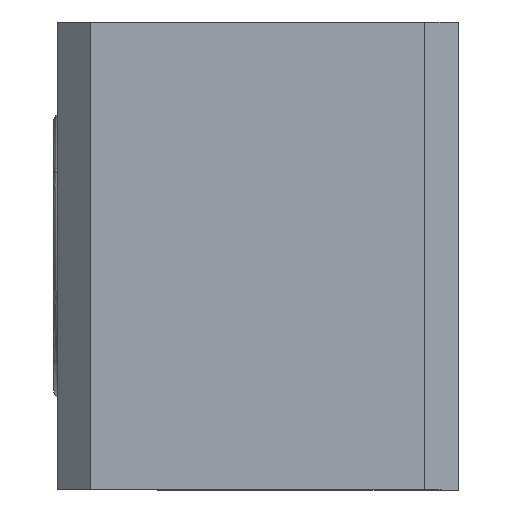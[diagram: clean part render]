
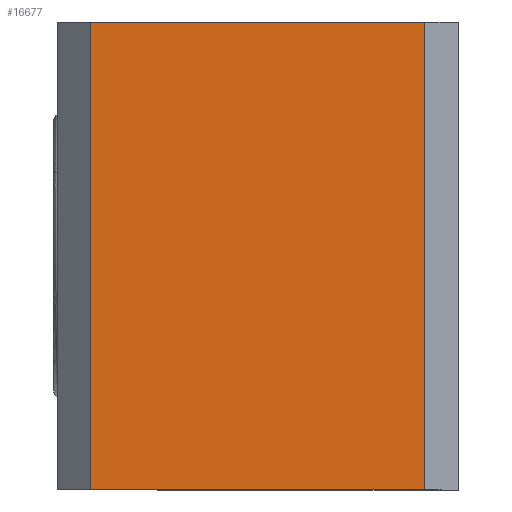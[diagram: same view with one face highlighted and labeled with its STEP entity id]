
A CAD part, front view. The second image highlights one B-rep face of the part: STEP entity #16677.
In plain terms, the highlighted planar face has unit normal (0, -1, 0).
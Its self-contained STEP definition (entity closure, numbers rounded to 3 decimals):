
#900 = CARTESIAN_POINT ( 'NONE',  ( -13.305, -9.1, -7. ) ) ;
#1202 = VECTOR ( 'NONE', #11718, 1000. ) ;
#1792 = DIRECTION ( 'NONE',  ( -1., 0., 0. ) ) ;
#1836 = EDGE_CURVE ( 'NONE', #7207, #18993, #21247, .T. ) ;
#3771 = CARTESIAN_POINT ( 'NONE',  ( -13.305, -9.1, 7. ) ) ;
#4298 = CARTESIAN_POINT ( 'NONE',  ( -23.305, -9.1, 7. ) ) ;
#6184 = EDGE_CURVE ( 'NONE', #7207, #22104, #11313, .T. ) ;
#6344 = CARTESIAN_POINT ( 'NONE',  ( -18.305, -9.1, -7. ) ) ;
#6729 = VECTOR ( 'NONE', #21754, 1000. ) ;
#6759 = EDGE_CURVE ( 'NONE', #21959, #18993, #21416, .T. ) ;
#7197 = ORIENTED_EDGE ( 'NONE', *, *, #1836, .F. ) ;
#7207 = VERTEX_POINT ( 'NONE', #15844 ) ;
#7340 = ORIENTED_EDGE ( 'NONE', *, *, #6759, .T. ) ;
#8341 = VECTOR ( 'NONE', #1792, 1000. ) ;
#9610 = ORIENTED_EDGE ( 'NONE', *, *, #15122, .F. ) ;
#9799 = CARTESIAN_POINT ( 'NONE',  ( -23.305, -9.1, -7. ) ) ;
#10366 = CARTESIAN_POINT ( 'NONE',  ( -13.305, -9.1, 0. ) ) ;
#10774 = CARTESIAN_POINT ( 'NONE',  ( -23.305, -9.1, 0. ) ) ;
#11313 = LINE ( 'NONE', #6344, #6729 ) ;
#11424 = PLANE ( 'NONE',  #22050 ) ;
#11503 = DIRECTION ( 'NONE',  ( 0., 0., 1. ) ) ;
#11718 = DIRECTION ( 'NONE',  ( 0., 0., -1. ) ) ;
#12042 = CARTESIAN_POINT ( 'NONE',  ( -18.305, -9.1, 7. ) ) ;
#12185 = VECTOR ( 'NONE', #12509, 1000. ) ;
#12509 = DIRECTION ( 'NONE',  ( 0., 0., 1. ) ) ;
#12761 = EDGE_LOOP ( 'NONE', ( #9610, #7340, #7197, #19008 ) ) ;
#14842 = LINE ( 'NONE', #10366, #1202 ) ;
#15122 = EDGE_CURVE ( 'NONE', #21959, #22104, #14842, .T. ) ;
#15844 = CARTESIAN_POINT ( 'NONE',  ( -23.305, -9.1, -7. ) ) ;
#16677 = ADVANCED_FACE ( 'NONE', ( #20396 ), #11424, .F. ) ;
#18993 = VERTEX_POINT ( 'NONE', #4298 ) ;
#19008 = ORIENTED_EDGE ( 'NONE', *, *, #6184, .T. ) ;
#20396 = FACE_OUTER_BOUND ( 'NONE', #12761, .T. ) ;
#21247 = LINE ( 'NONE', #10774, #12185 ) ;
#21416 = LINE ( 'NONE', #12042, #8341 ) ;
#21715 = DIRECTION ( 'NONE',  ( 0., 1., 0. ) ) ;
#21754 = DIRECTION ( 'NONE',  ( 1., 0., 0. ) ) ;
#21959 = VERTEX_POINT ( 'NONE', #3771 ) ;
#22050 = AXIS2_PLACEMENT_3D ( 'NONE', #9799, #21715, #11503 ) ;
#22104 = VERTEX_POINT ( 'NONE', #900 ) ;
